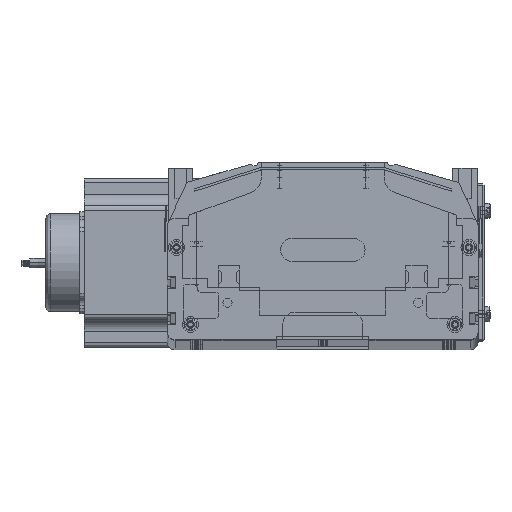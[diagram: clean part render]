
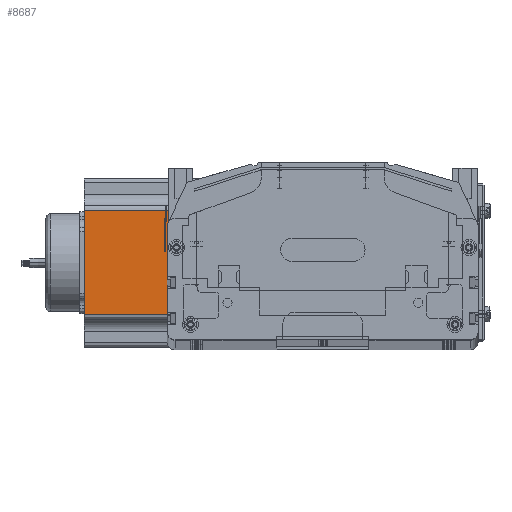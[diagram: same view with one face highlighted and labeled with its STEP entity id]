
A CAD part, top view. The second image highlights one B-rep face of the part: STEP entity #8687.
In plain terms, the highlighted planar face has unit normal (0, 0, 1) as drawn and (0, -1, 0) by its records, which use the part's own axes.
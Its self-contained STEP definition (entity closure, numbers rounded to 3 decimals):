
#8664 = EDGE_LOOP ( 'NONE', ( #8691, #8679, #8668, #9043 ) ) ;
#8665 = EDGE_CURVE ( 'NONE', #8688, #8683, #65115, .T. ) ;
#8668 = ORIENTED_EDGE ( 'NONE', *, *, #8879, .F. ) ;
#8679 = ORIENTED_EDGE ( 'NONE', *, *, #8665, .T. ) ;
#8683 = VERTEX_POINT ( 'NONE', #64983 ) ;
#8687 = ADVANCED_FACE ( 'NONE', ( #65015 ), #65012, .F. ) ;
#8688 = VERTEX_POINT ( 'NONE', #65017 ) ;
#8691 = ORIENTED_EDGE ( 'NONE', *, *, #9015, .T. ) ;
#8858 = VERTEX_POINT ( 'NONE', #65212 ) ;
#8878 = EDGE_CURVE ( 'NONE', #8858, #8880, #65204, .T. ) ;
#8879 = EDGE_CURVE ( 'NONE', #8858, #8683, #65230, .T. ) ;
#8880 = VERTEX_POINT ( 'NONE', #65234 ) ;
#9015 = EDGE_CURVE ( 'NONE', #8880, #8688, #65489, .T. ) ;
#9043 = ORIENTED_EDGE ( 'NONE', *, *, #8878, .T. ) ;
#64983 = CARTESIAN_POINT ( 'NONE',  ( 88.952, 0., 160.5 ) ) ;
#64984 = AXIS2_PLACEMENT_3D ( 'NONE', #65089, #65116, #65009 ) ;
#65009 = DIRECTION ( 'NONE',  ( 0., 0., 1. ) ) ;
#65012 = PLANE ( 'NONE',  #64984 ) ;
#65015 = FACE_OUTER_BOUND ( 'NONE', #8664, .T. ) ;
#65017 = CARTESIAN_POINT ( 'NONE',  ( 88.952, 0., 0. ) ) ;
#65089 = CARTESIAN_POINT ( 'NONE',  ( 0., 0., 160.5 ) ) ;
#65110 = DIRECTION ( 'NONE',  ( 0., 0., 1. ) ) ;
#65111 = VECTOR ( 'NONE', #65110, 1000. ) ;
#65112 = CARTESIAN_POINT ( 'NONE',  ( 88.952, 0., 160.5 ) ) ;
#65115 = LINE ( 'NONE', #65112, #65111 ) ;
#65116 = DIRECTION ( 'NONE',  ( 0., 1., 0. ) ) ;
#65202 = VECTOR ( 'NONE', #65232, 1000. ) ;
#65203 = CARTESIAN_POINT ( 'NONE',  ( 21.048, 0., 160.5 ) ) ;
#65204 = LINE ( 'NONE', #65203, #65202 ) ;
#65212 = CARTESIAN_POINT ( 'NONE',  ( 21.048, 0., 160.5 ) ) ;
#65227 = DIRECTION ( 'NONE',  ( 1., 0., 0. ) ) ;
#65228 = VECTOR ( 'NONE', #65227, 1000. ) ;
#65229 = CARTESIAN_POINT ( 'NONE',  ( 0., 0., 160.5 ) ) ;
#65230 = LINE ( 'NONE', #65229, #65228 ) ;
#65232 = DIRECTION ( 'NONE',  ( 0., 0., -1. ) ) ;
#65234 = CARTESIAN_POINT ( 'NONE',  ( 21.048, 0., 0. ) ) ;
#65391 = DIRECTION ( 'NONE',  ( 1., 0., 0. ) ) ;
#65392 = VECTOR ( 'NONE', #65391, 1000. ) ;
#65488 = CARTESIAN_POINT ( 'NONE',  ( 0., 0., 0. ) ) ;
#65489 = LINE ( 'NONE', #65488, #65392 ) ;
